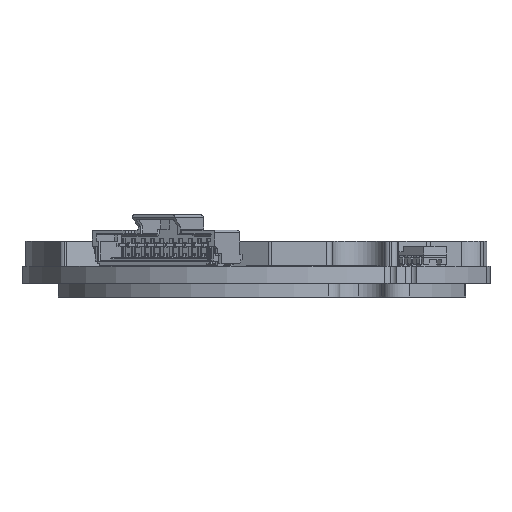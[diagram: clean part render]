
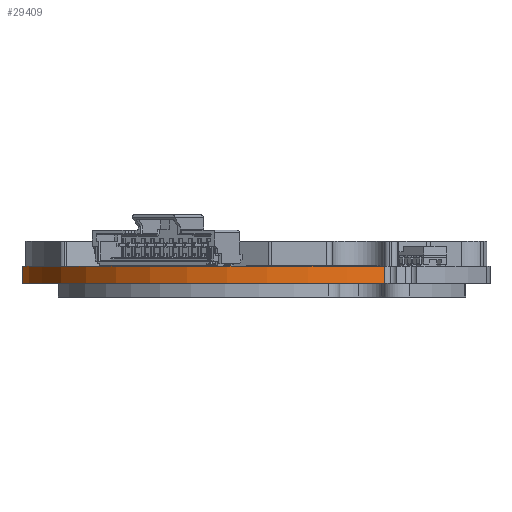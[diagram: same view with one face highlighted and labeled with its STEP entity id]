
A CAD part, left-side view. The second image highlights one B-rep face of the part: STEP entity #29409.
In plain terms, the highlighted cylindrical face has radius 22.4 mm (diameter 44.8 mm), a partial arc.
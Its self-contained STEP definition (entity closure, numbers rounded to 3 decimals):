
#243 = CARTESIAN_POINT ( 'NONE',  ( 0., 0., 0. ) ) ;
#296 = ORIENTED_EDGE ( 'NONE', *, *, #30046, .F. ) ;
#809 = DIRECTION ( 'NONE',  ( 0., 0., 1. ) ) ;
#1116 = CARTESIAN_POINT ( 'NONE',  ( -19.566, -10.906, -1.594 ) ) ;
#5218 = CARTESIAN_POINT ( 'NONE',  ( -19.566, -10.906, 0. ) ) ;
#7475 = ORIENTED_EDGE ( 'NONE', *, *, #25438, .T. ) ;
#7524 = ORIENTED_EDGE ( 'NONE', *, *, #49361, .F. ) ;
#13254 = DIRECTION ( 'NONE',  ( 0., 0., -1. ) ) ;
#18562 = FACE_OUTER_BOUND ( 'NONE', #24553, .T. ) ;
#19090 = VERTEX_POINT ( 'NONE', #22926 ) ;
#20352 = CARTESIAN_POINT ( 'NONE',  ( 0., 0., -1.594 ) ) ;
#22926 = CARTESIAN_POINT ( 'NONE',  ( -1.68, 22.337, -1.594 ) ) ;
#23680 = LINE ( 'NONE', #34340, #61947 ) ;
#24553 = EDGE_LOOP ( 'NONE', ( #33039, #7475, #296, #7524 ) ) ;
#25438 = EDGE_CURVE ( 'NONE', #57765, #27892, #43705, .T. ) ;
#27353 = CYLINDRICAL_SURFACE ( 'NONE', #32711, 22.4 ) ;
#27892 = VERTEX_POINT ( 'NONE', #5218 ) ;
#29409 = ADVANCED_FACE ( 'NONE', ( #18562 ), #27353, .T. ) ;
#30046 = EDGE_CURVE ( 'NONE', #48973, #27892, #54770, .T. ) ;
#32371 = DIRECTION ( 'NONE',  ( 0.42, -0.908, 0. ) ) ;
#32711 = AXIS2_PLACEMENT_3D ( 'NONE', #56176, #13254, #32371 ) ;
#33039 = ORIENTED_EDGE ( 'NONE', *, *, #43116, .T. ) ;
#34173 = DIRECTION ( 'NONE',  ( 0., 0., 1. ) ) ;
#34340 = CARTESIAN_POINT ( 'NONE',  ( -1.68, 22.337, -1.594 ) ) ;
#40331 = CARTESIAN_POINT ( 'NONE',  ( -1.68, 22.337, 0. ) ) ;
#43116 = EDGE_CURVE ( 'NONE', #19090, #57765, #48491, .T. ) ;
#43705 = LINE ( 'NONE', #1116, #61309 ) ;
#48491 = CIRCLE ( 'NONE', #51494, 22.4 ) ;
#48973 = VERTEX_POINT ( 'NONE', #40331 ) ;
#49361 = EDGE_CURVE ( 'NONE', #19090, #48973, #23680, .T. ) ;
#51494 = AXIS2_PLACEMENT_3D ( 'NONE', #20352, #34173, #58580 ) ;
#51971 = DIRECTION ( 'NONE',  ( 0.42, -0.908, 0. ) ) ;
#54770 = CIRCLE ( 'NONE', #60792, 22.4 ) ;
#56176 = CARTESIAN_POINT ( 'NONE',  ( 0., 0., -1.594 ) ) ;
#56968 = DIRECTION ( 'NONE',  ( 0., 0., 1. ) ) ;
#57765 = VERTEX_POINT ( 'NONE', #61759 ) ;
#58580 = DIRECTION ( 'NONE',  ( 0.42, -0.908, 0. ) ) ;
#60792 = AXIS2_PLACEMENT_3D ( 'NONE', #243, #56968, #51971 ) ;
#61309 = VECTOR ( 'NONE', #809, 1000. ) ;
#61759 = CARTESIAN_POINT ( 'NONE',  ( -19.566, -10.906, -1.594 ) ) ;
#61923 = DIRECTION ( 'NONE',  ( 0., 0., 1. ) ) ;
#61947 = VECTOR ( 'NONE', #61923, 1000. ) ;
